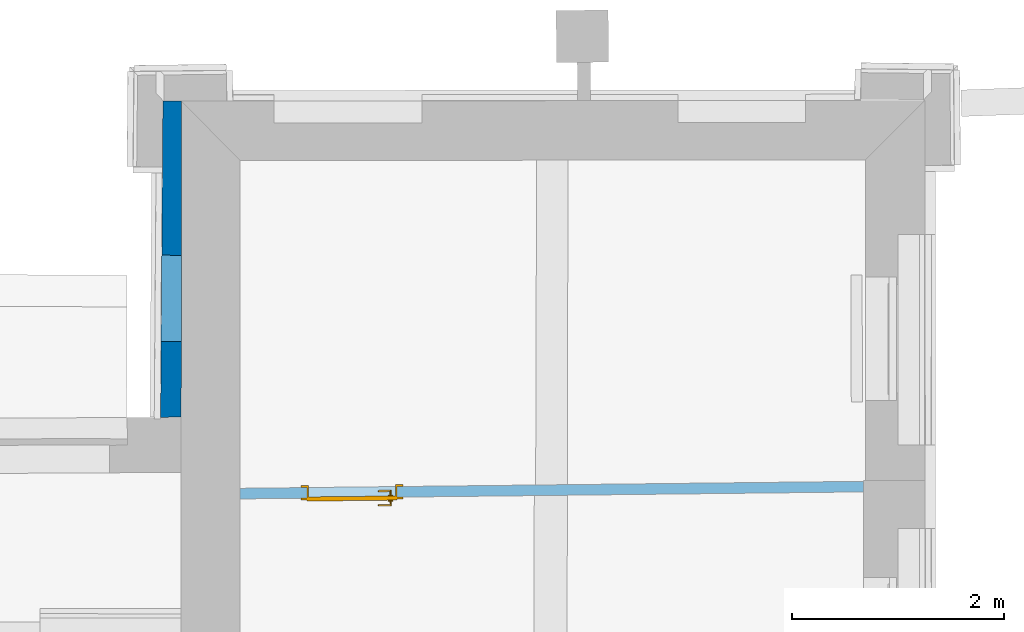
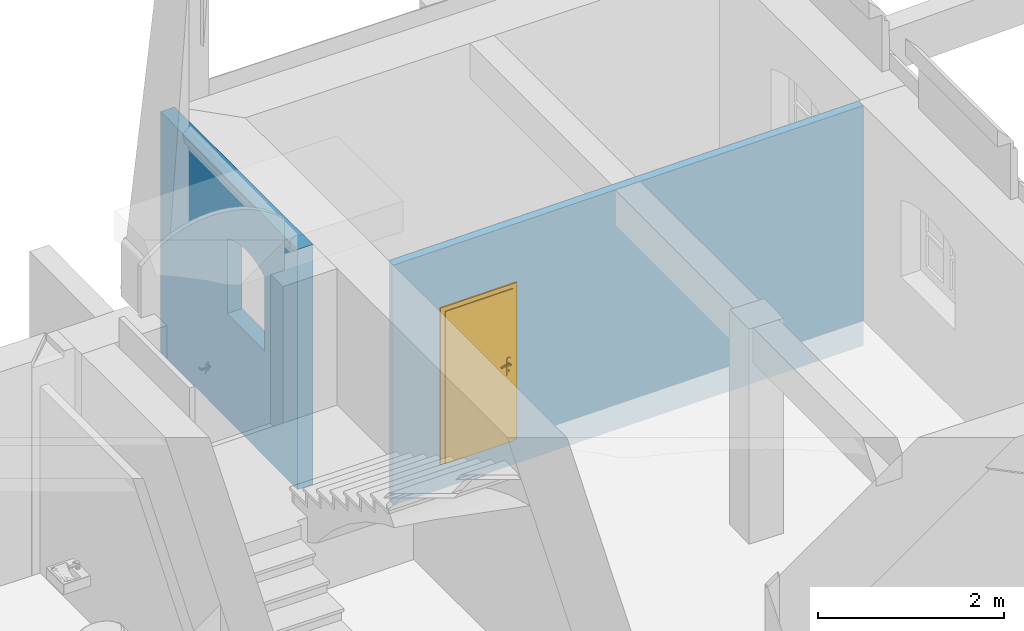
# One storey, part 108 of 196: 1 door, 1 wall, 2 openings, plus 1 element that does not belong to this part.
"""IFC2X3 building model written with IfcOpenShell, lengths in metres."""

import ifcopenshell
import ifcopenshell.guid

model = None  # the IFC model being written
_history = None  # IfcOwnerHistory: only IFC2X3 demands one
_inside = {}  # id of a spatial element -> (the spatial element, [elements in it])
_under = {}  # id of a project, library or spatial element -> (it, [spatial elements below it])
_declared = {}  # id of a project -> (the project, [libraries it declares])
_typed = {}  # id of a type object -> (the type object, [elements of that type])
_made_of = {}  # id of a material, layer set ... -> (it, [elements and type objects made of it])


def new_model(schema):
    """Start an empty IFC model of exactly this schema.

    Asked for "IFC4X3", IfcOpenShell would pick the latest addendum, in which some entities
    have other attributes; the version numbers below select the first issue.
    IFC2X3 requires an IfcOwnerHistory on every rooted entity: one is made here for all.
    """
    global model, _history
    if schema == "IFC4X3":
        model = ifcopenshell.file(schema_version=(4, 3, 0, 0))
    else:
        model = ifcopenshell.file(schema=schema)
    _inside.clear()
    _under.clear()
    _declared.clear()
    _typed.clear()
    _made_of.clear()
    _history = None
    if model.schema == "IFC2X3":
        org = make("IfcOrganization", Name="unknown")
        user = make(
            "IfcPersonAndOrganization",
            ThePerson=make("IfcPerson", FamilyName="unknown"),
            TheOrganization=org,
        )
        app = make(
            "IfcApplication",
            ApplicationDeveloper=org,
            Version="unknown",
            ApplicationFullName="unknown",
            ApplicationIdentifier="unknown",
        )
        _history = make(
            "IfcOwnerHistory",
            OwningUser=user,
            OwningApplication=app,
            ChangeAction="ADDED",
            CreationDate=0,
        )
    return model


def make(cls, **values):
    """One entity of the class cls with the attributes given. An attribute that is None is left unset."""
    return model.create_entity(
        cls, **{name: value for name, value in values.items() if value is not None}
    )


def entity(cls, *values):
    """Any entity or typed value of the class cls, its attributes in the order of the schema. None: left unset."""
    e = model.create_entity(cls)
    for i, value in enumerate(values):
        if value is not None:
            e[i] = value
    return e


def rooted(cls, **values):
    """An entity with a GlobalId (a new one), such as an element, a storey or a relation."""
    return make(cls, GlobalId=ifcopenshell.guid.new(), OwnerHistory=_history, **values)


def si_unit(unit_type, name, prefix=None):
    """IfcSIUnit, for example si_unit("LENGTHUNIT", "METRE", prefix="MILLI")."""
    return make("IfcSIUnit", UnitType=unit_type, Prefix=prefix, Name=name)


def converted_unit(unit_type, name, factor, base, dimensions=None, offset=None):
    """IfcConversionBasedUnit, such as the inch: factor (a typed value) times the base unit."""
    return make(
        "IfcConversionBasedUnit"
        if offset is None
        else "IfcConversionBasedUnitWithOffset",
        ConversionOffset=offset,
        Dimensions=None
        if dimensions is None
        else entity("IfcDimensionalExponents", *dimensions),
        UnitType=unit_type,
        Name=name,
        ConversionFactor=make(
            "IfcMeasureWithUnit", ValueComponent=factor, UnitComponent=base
        ),
    )


def derived_unit(unit_type, elements):
    """IfcDerivedUnit: a product of units, each with its exponent."""
    return make(
        "IfcDerivedUnit",
        Elements=[
            make("IfcDerivedUnitElement", Unit=unit, Exponent=power)
            for unit, power in elements
        ],
        UnitType=unit_type,
    )


def money_unit(currency):
    """IfcMonetaryUnit."""
    return make("IfcMonetaryUnit", Currency=currency)


def assignment(units):
    """IfcUnitAssignment: the units of a project."""
    return None if units is None else make("IfcUnitAssignment", Units=units)


def point(xyz):
    """IfcCartesianPoint."""
    return None if xyz is None else make("IfcCartesianPoint", Coordinates=xyz)


def direction(xyz):
    """IfcDirection."""
    return None if xyz is None else make("IfcDirection", DirectionRatios=xyz)


def frame(location, z_axis=None, x_axis=None):
    """IfcAxis2Placement3D, a coordinate frame: its origin and axes. An axis left out is left unset."""
    return make(
        "IfcAxis2Placement3D",
        Location=point(location),
        Axis=direction(z_axis),
        RefDirection=direction(x_axis),
    )


def frame_2d(location, x_axis=None):
    """IfcAxis2Placement2D, a coordinate frame in the plane: its origin and x axis."""
    return make(
        "IfcAxis2Placement2D", Location=point(location), RefDirection=direction(x_axis)
    )


def origin_with_axes():
    """The frame at (0, 0, 0) with the z axis (0, 0, 1) and the x axis (1, 0, 0) written out."""
    return frame((0.0, 0.0, 0.0), z_axis=(0.0, 0.0, 1.0), x_axis=(1.0, 0.0, 0.0))


def origin_2d_with_axis():
    """The frame at (0, 0) in the plane with the x axis (1, 0) written out."""
    return frame_2d((0.0, 0.0), x_axis=(1.0, 0.0))


def place(relative_to, where):
    """IfcLocalPlacement: puts the frame where relative to a parent placement (None: the world)."""
    return make(
        "IfcLocalPlacement", PlacementRelTo=relative_to, RelativePlacement=where
    )


def context(
    kind, dimensions, precision=None, world=None, true_north=None, identifier=None
):
    """IfcGeometricRepresentationContext, for example the 3D "Model" context."""
    return make(
        "IfcGeometricRepresentationContext",
        ContextIdentifier=identifier,
        ContextType=kind,
        CoordinateSpaceDimension=dimensions,
        Precision=precision,
        WorldCoordinateSystem=world,
        TrueNorth=true_north,
    )


def subcontext(parent, identifier, kind, view, scale=None):
    """IfcGeometricRepresentationSubContext, for example "Body" below "Model"."""
    return make(
        "IfcGeometricRepresentationSubContext",
        ContextIdentifier=identifier,
        ContextType=kind,
        ParentContext=parent,
        TargetScale=scale,
        TargetView=view,
    )


def project(units=None, contexts=None):
    """IfcProject with its units and contexts."""
    return rooted(
        "IfcProject",
        Name="project",
        RepresentationContexts=contexts,
        UnitsInContext=assignment(units),
    )


def spatial(cls, under=None, at=None, **own):
    """A site, building, storey or space (cls), placed at a placement, below another one or the project."""
    s = rooted(cls, ObjectPlacement=at, **own)
    if under is not None:
        _under.setdefault(under.id(), (under, []))[1].append(s)
    return s


def polyline(points):
    """IfcPolyline through the points."""
    return make("IfcPolyline", Points=[point(p) for p in points])


def profile(cls, at=None, kind="AREA", **sizes):
    """A parametric profile (cls). Its sizes go by their IFC names, for example OverallWidth=200.0."""
    return make(cls, ProfileType=kind, Position=at, **sizes)


def rectangle(**sizes):
    """IfcRectangleProfileDef."""
    return profile("IfcRectangleProfileDef", **sizes)


def outline(outer, holes=None, kind="AREA"):
    """IfcArbitraryClosedProfileDef: a profile drawn as a closed curve; with holes, ...WithVoids."""
    if holes is None:
        return make("IfcArbitraryClosedProfileDef", ProfileType=kind, OuterCurve=outer)
    return make(
        "IfcArbitraryProfileDefWithVoids",
        ProfileType=kind,
        OuterCurve=outer,
        InnerCurves=holes,
    )


def extrude(swept, where, along, depth):
    """IfcExtrudedAreaSolid: the profile swept, set in the frame where, extruded along a direction by depth."""
    return make(
        "IfcExtrudedAreaSolid",
        SweptArea=swept,
        Position=where,
        ExtrudedDirection=direction(along),
        Depth=depth,
    )


def boolean(op, a, b):
    """IfcBooleanResult of two solids."""
    return make("IfcBooleanResult", Operator=op, FirstOperand=a, SecondOperand=b)


def faces_of(points, faces, orient=None, outer=None):
    """IfcFace entities. A face is a list of loops; a loop is a list of indices into points, from 0.

    orient and outer hold one flag for each loop. By default every Orientation is true, the
    first loop of a face is its IfcFaceOuterBound and the others are IfcFaceBound.
    """
    made = []
    for i, loops in enumerate(faces):
        bounds = []
        for j, loop in enumerate(loops):
            is_outer = j == 0 if outer is None else outer[i][j]
            bounds.append(
                make(
                    "IfcFaceOuterBound" if is_outer else "IfcFaceBound",
                    Bound=make("IfcPolyLoop", Polygon=[points[k] for k in loop]),
                    Orientation=True if orient is None else orient[i][j],
                )
            )
        made.append(make("IfcFace", Bounds=bounds))
    return made


def faceted_brep(points, faces, orient=None, outer=None, voids=None):
    """IfcFacetedBrep: a solid bounded by flat faces; with voids (closed shells), ...WithVoids."""
    shared = [point(p) for p in points]
    hull = make("IfcClosedShell", CfsFaces=faces_of(shared, faces, orient, outer))
    if voids is None:
        return make("IfcFacetedBrep", Outer=hull)
    return make(
        "IfcFacetedBrepWithVoids",
        Outer=hull,
        Voids=[
            make(cls, CfsFaces=faces_of(shared, fs, o, b)) for cls, fs, o, b in voids
        ],
    )


def shape(context_of_items, identifier, shape_type, items):
    """IfcShapeRepresentation: the items that make up one representation, for example the "Body"."""
    return make(
        "IfcShapeRepresentation",
        ContextOfItems=context_of_items,
        RepresentationIdentifier=identifier,
        RepresentationType=shape_type,
        Items=items,
    )


def material(Name=None, Category=None):
    """IfcMaterial."""
    return make("IfcMaterial", Name=Name, Category=Category)


def layer(
    of_material, thickness, ventilated=None, Name=None, Category=None, Priority=None
):
    """IfcMaterialLayer: one layer of a wall or slab, of a material (None: an air gap)."""
    return make(
        "IfcMaterialLayer",
        Material=of_material,
        LayerThickness=thickness,
        IsVentilated=ventilated,
        Name=Name,
        Category=Category,
        Priority=Priority,
    )


def layer_set(layers, Name=None):
    """IfcMaterialLayerSet."""
    return make("IfcMaterialLayerSet", MaterialLayers=layers, LayerSetName=Name)


def layer_usage(for_layer_set, set_direction, sense, offset, extent=None):
    """IfcMaterialLayerSetUsage: how a layer set lies in its element."""
    return make(
        "IfcMaterialLayerSetUsage",
        ForLayerSet=for_layer_set,
        LayerSetDirection=set_direction,
        DirectionSense=sense,
        OffsetFromReferenceLine=offset,
        ReferenceExtent=extent,
    )


def made_of(thing, what):
    """Note that an element or type object is made of a material, layer set ...; save() writes the relation."""
    if what is not None:
        _made_of.setdefault(what.id(), (what, []))[1].append(thing)
    return thing


def type_object(cls, material=None, **own):
    """A type object (cls), such as IfcWallType, which elements share."""
    return made_of(rooted(cls, **own), material)


def element(
    cls,
    number,
    at=None,
    inside=None,
    cuts=None,
    type_object=None,
    material=None,
    context=None,
    identifier="Body",
    shape_type=None,
    held_by="IfcProductDefinitionShape",
    body=None,
    shapes=None,
    **own,
):
    """One element of the class cls, such as IfcWall. Its Tag is "e" and its number.

    at: its placement. inside: the storey or other place that contains it. cuts: it is an
    opening in that element (IfcRelVoidsElement). A single representation is given by context,
    identifier, shape_type and body (its items); several are given by shapes. held_by: the class
    of the entity that holds the representations. save() writes the other relations.
    """
    e = rooted(cls, Tag="e%d" % number, ObjectPlacement=at, **own)
    if body is not None:
        shapes = [shape(context, identifier, shape_type, body)]
    if shapes is not None:
        e.Representation = make(held_by, Representations=shapes)
    if inside is not None:
        _inside.setdefault(inside.id(), (inside, []))[1].append(e)
    if cuts is not None:
        rooted(
            "IfcRelVoidsElement", RelatingBuildingElement=cuts, RelatedOpeningElement=e
        )
    if type_object is not None:
        _typed.setdefault(type_object.id(), (type_object, []))[1].append(e)
    return made_of(e, material)


def fill(opening, filler):
    """IfcRelFillsElement: the door or window that sits in an opening."""
    return rooted(
        "IfcRelFillsElement",
        RelatingOpeningElement=opening,
        RelatedBuildingElement=filler,
    )


def aggregate(whole, parts):
    """IfcRelAggregates: a whole, such as a stair, and the parts it consists of."""
    return rooted("IfcRelAggregates", RelatingObject=whole, RelatedObjects=parts)


def save(model, path):
    """Write the relations noted so far, then the file.

    IfcRelAggregates (storeys below a building ...), IfcRelContainedInSpatialStructure (elements
    in a storey), IfcRelDefinesByType, IfcRelAssociatesMaterial and IfcRelDeclares: one each for
    every whole, place, type object, material and project.
    """
    for whole, parts in _under.values():
        aggregate(whole, parts)
    for where, things in _inside.values():
        rooted(
            "IfcRelContainedInSpatialStructure",
            RelatedElements=things,
            RelatingStructure=where,
        )
    for kind, things in _typed.values():
        rooted("IfcRelDefinesByType", RelatedObjects=things, RelatingType=kind)
    for what, things in _made_of.values():
        rooted("IfcRelAssociatesMaterial", RelatedObjects=things, RelatingMaterial=what)
    for by, libraries in _declared.values():
        rooted("IfcRelDeclares", RelatingContext=by, RelatedDefinitions=libraries)
    model.write(path)


model = new_model("IFC2X3")

# Units and contexts
model_context = context("Model", 3, precision=1e-05, world=origin_with_axes(), true_north=direction((0.0, 1.0)))
body_context = subcontext(model_context, "Body", "Model", "MODEL_VIEW")
ifc_project = project(units=[si_unit("LENGTHUNIT", "METRE"), si_unit("AREAUNIT", "SQUARE_METRE"), si_unit("VOLUMEUNIT", "CUBIC_METRE"), converted_unit("PLANEANGLEUNIT", "DEGREE", entity("IfcPlaneAngleMeasure", 0.0174532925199), si_unit("PLANEANGLEUNIT", "RADIAN"), dimensions=[0, 0, 0, 0, 0, 0, 0]), money_unit("EUR"), converted_unit("TIMEUNIT", "Year", entity("IfcTimeMeasure", 31556926.0), si_unit("TIMEUNIT", "SECOND"), dimensions=[0, 0, 1, 0, 0, 0, 0]), si_unit("MASSUNIT", "GRAM", prefix="KILO"), si_unit("THERMODYNAMICTEMPERATUREUNIT", "DEGREE_CELSIUS"), si_unit("LUMINOUSINTENSITYUNIT", "LUMEN"), si_unit("ENERGYUNIT", "JOULE", prefix="MEGA"), derived_unit("THERMALCONDUCTANCEUNIT", [(si_unit("POWERUNIT", "WATT"), 1), (si_unit("LENGTHUNIT", "METRE"), -1), (si_unit("THERMODYNAMICTEMPERATUREUNIT", "KELVIN"), -1)]), derived_unit("SPECIFICHEATCAPACITYUNIT", [(si_unit("ENERGYUNIT", "JOULE"), 1), (si_unit("MASSUNIT", "GRAM", prefix="KILO"), -1), (si_unit("THERMODYNAMICTEMPERATUREUNIT", "KELVIN"), -1)]), derived_unit("MASSDENSITYUNIT", [(si_unit("MASSUNIT", "GRAM", prefix="KILO"), 1), (si_unit("VOLUMEUNIT", "CUBIC_METRE"), -1)])], contexts=[model_context])

# Site, building, storey
site_placement = place(None, origin_with_axes())
site = spatial("IfcSite", under=ifc_project, at=site_placement, Name="Gelände", CompositionType="ELEMENT")
building_placement = place(site_placement, origin_with_axes())
building = spatial("IfcBuilding", under=site, at=building_placement, Name="Gebäude", CompositionType="ELEMENT")
storey_placement = place(building_placement, frame((0.0, 0.0, -3.0), z_axis=(0.0, 0.0, 1.0), x_axis=(1.0, 0.0, 0.0)))
storey = spatial("IfcBuildingStorey", under=building, at=storey_placement, Name="KELLERGESCHOSS", CompositionType="ELEMENT", Elevation=-3.0)

# Wall, opening
ifc_material = material(Name="05_ALLGEMEIN - TRAGENDE BAUTEILE")
wall_type_1 = type_object("IfcWallType", Name="05_ALLGEMEIN - TRAGENDE BAUTEILE 400", PredefinedType="ELEMENTEDWALL")
wall_1_placement = place(storey_placement, frame((24.4999032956, 29.1629939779, -0.36), z_axis=(0.0, 0.0, 1.0), x_axis=(-0.00729687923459, -0.999973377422, 0.0)))
wall_1 = element("IfcWall", 1, at=wall_1_placement, inside=storey, type_object=wall_type_1, material=ifc_material, Name="Wand-030", ObjectType="ELEMENTEDWALL", context=body_context, shape_type="CSG", body=[
    boolean("DIFFERENCE", extrude(outline(polyline([(0.0, 0.0), (3.49754577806, 0.0), (3.49754577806, 0.4), (0.0, 0.4), (0.0, 0.0)])), origin_with_axes(), (0.0, 0.0, 1.0), 3.15), faceted_brep([(0.0, 0.17335372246, 0.0), (0.0, 0.17335372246, 3.15), (0.0, 0.4, 3.15), (0.0, 0.4, 0.0), (0.558592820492, 0.177347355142, 3.15), (0.558592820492, 0.177347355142, 0.0), (2.97502572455, 0.19462352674, 3.15), (2.97750363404, 0.0, 3.15), (3.49754577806, 0.0, 3.15), (3.49754577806, 0.4, 3.15), (3.49754577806, 0.4, 0.0), (3.49754577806, 0.0, 0.0), (2.97750363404, 0.0, 0.0), (2.97502572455, 0.19462352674, 0.0)], [[[0, 1, 2, 3]], [[4, 1, 0, 5]], [[6, 7, 8, 9, 2, 1, 4]], [[9, 10, 3, 2]], [[5, 0, 3, 10, 11, 12, 13]], [[6, 4, 5, 13]], [[7, 6, 13, 12]], [[7, 12, 11, 8]], [[8, 11, 10, 9]]])),
])
opening_1_placement = place(wall_1_placement, frame((1.85745492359, 0.0, 1.3849357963), z_axis=(0.0, 0.0, 1.0), x_axis=(1.0, 0.0, 0.0)))
element("IfcOpeningElement", 2, at=opening_1_placement, cuts=wall_1, Name="Fenster-015", context=body_context, shape_type="SweptSolid", body=[
    extrude(outline(polyline([(-0.406101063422, 0.0), (-0.406101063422, -0.974247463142), (-0.329991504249, -1.01155716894), (-0.250499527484, -1.04098003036), (-0.168439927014, -1.06221446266), (-0.084653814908, -1.0750428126), (0.0, -1.07933358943), (0.084653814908, -1.0750428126), (0.168439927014, -1.06221446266), (0.250499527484, -1.04098003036), (0.329991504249, -1.01155716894), (0.406101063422, -0.974247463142), (0.406101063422, 0.0), (-0.406101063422, 0.0)])), frame((0.0, 0.266646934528, 0.0), z_axis=(0.0, 1.0, 0.0), x_axis=(1.0, 0.0, 0.0)), (0.0, 0.0, -1.0), 0.666646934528),
    extrude(outline(polyline([(0.476101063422, 0.0), (0.476101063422, 1.014368), (0.403076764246, 1.05487304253), (0.326637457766, 1.08849207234), (0.247430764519, 1.11494025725), (0.166127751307, 1.13399351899), (0.083417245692, 1.14549043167), (0.0, 1.14933358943), (-0.083417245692, 1.14549043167), (-0.166127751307, 1.13399351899), (-0.247430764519, 1.11494025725), (-0.326637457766, 1.08849207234), (-0.403076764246, 1.05487304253), (-0.476101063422, 1.014368), (-0.476101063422, 0.0), (0.476101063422, 0.0)])), frame((0.0, 0.266646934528, 0.0), z_axis=(0.0, -1.0, 0.0), x_axis=(1.0, 0.0, 0.0)), (0.0, 0.0, -1.0), 0.533353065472),
])

# Wall, opening, door
ifc_layer = layer(ifc_material, 0.1, ventilated="UNKNOWN")
ifc_layer_set = layer_set([ifc_layer], Name="05_ALLGEMEIN - TRAGENDE BAUTEILE 0.1")
ifc_layer_usage = layer_usage(ifc_layer_set, "AXIS2", "POSITIVE", -0.1)
wall_type_2 = type_object("IfcWallType", Name="05_ALLGEMEIN - TRAGENDE BAUTEILE 100", PredefinedType="ELEMENTEDWALL")
wall_2_placement = place(storey_placement, frame((24.6727134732, 25.5107792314, -0.36), z_axis=(0.0, 0.0, 1.0), x_axis=(0.999936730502, 0.0112487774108, 0.0)))
wall_2 = element("IfcWallStandardCase", 3, at=wall_2_placement, inside=storey, type_object=wall_type_2, material=ifc_layer_usage, Name="Wand-039", ObjectType="ELEMENTEDWALL", context=body_context, shape_type="SweptSolid", body=[
    extrude(outline(polyline([(0.553286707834, -0.1), (6.42175266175, -0.1), (6.42284391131, 0.0), (0.554426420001, 0.0), (0.553286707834, -0.1)])), origin_with_axes(), (0.0, 0.0, 1.0), 3.15),
])
opening_2_placement = place(wall_2_placement, frame((1.60711637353, 0.0, 0.333848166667), z_axis=(0.0, 0.0, 1.0), x_axis=(1.0, 0.0, 0.0)))
opening_2 = element("IfcOpeningElement", 4, at=opening_2_placement, cuts=wall_2, Name="Tür-022", context=body_context, shape_type="SweptSolid", body=[
    extrude(rectangle(XDim=0.850611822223, YDim=2.00126, at=origin_2d_with_axis()), frame((0.0, -0.1, 1.00063), z_axis=(0.0, 1.0, 0.0), x_axis=(-1.0, 0.0, 0.0)), (0.0, 0.0, 1.0), 0.3),
])
door_style = type_object("IfcDoorStyle", Name="Blockrahmentür 1-Fl 25", ConstructionType="NOTDEFINED", OperationType="SINGLE_SWING_RIGHT", ParameterTakesPrecedence=False, Sizeable=False)
door_placement = place(opening_2_placement, frame((0.410305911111, 0.0, 0.0), z_axis=(0.0, 0.0, 1.0), x_axis=(-1.0, 0.0, 0.0)))
door = element("IfcDoor", 5, at=door_placement, inside=storey, type_object=door_style, Name="Tür-022", ObjectType="NOTDEFINED", OverallHeight=2.00126, OverallWidth=0.850612, context=body_context, shape_type="Brep", body=[
    faceted_brep([(0.835611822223, -0.018, 0.0), (0.835611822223, 0.088, 0.0), (0.835611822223, 0.088, 2.00126), (0.835611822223, -0.018, 2.00126), (0.820611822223, -0.018, 0.0), (0.820611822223, 0.088, 0.0), (0.820611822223, 0.088, 1.98626), (0.522405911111, 0.088, 1.98626), (0.410405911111, 0.088, 1.98626), (0.0, 0.088, 1.98626), (0.0, 0.088, 0.0), (-0.015, 0.088, 0.0), (-0.015, 0.088, 2.00126), (-0.015, -0.018, 2.00126), (-0.015, -0.018, 0.0), (0.0, -0.018, 0.0), (0.0, -0.018, 1.98626), (0.410405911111, -0.018, 1.98626), (0.522405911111, -0.018, 1.98626), (0.820611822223, -0.018, 1.98626)], [[[0, 1, 2, 3]], [[4, 5, 1, 0]], [[1, 5, 6, 7, 8, 9, 10, 11, 12, 2]], [[3, 2, 12, 13]], [[0, 3, 13, 14, 15, 16, 17, 18, 19, 4]], [[19, 6, 5, 4]], [[18, 7, 6, 19]], [[17, 8, 7, 18]], [[16, 9, 8, 17]], [[15, 10, 9, 16]], [[14, 11, 10, 15]], [[13, 12, 11, 14]]]),
    faceted_brep([(0.835611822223, 0.088, 0.0), (0.835611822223, 0.118, 0.0), (0.835611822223, 0.118, 2.00126), (0.835611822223, 0.088, 2.00126), (0.832611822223, 0.088, 0.0), (0.832611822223, 0.118, 0.0), (0.832611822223, 0.118, 1.99826), (0.510405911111, 0.118, 1.99826), (0.422405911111, 0.118, 1.99826), (-0.012, 0.118, 1.99826), (-0.012, 0.118, 0.0), (-0.015, 0.118, 0.0), (-0.015, 0.118, 2.00126), (-0.015, 0.088, 2.00126), (-0.015, 0.088, 0.0), (-0.012, 0.088, 0.0), (-0.012, 0.088, 1.99826), (0.422405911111, 0.088, 1.99826), (0.510405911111, 0.088, 1.99826), (0.832611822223, 0.088, 1.99826)], [[[0, 1, 2, 3]], [[4, 5, 1, 0]], [[1, 5, 6, 7, 8, 9, 10, 11, 12, 2]], [[3, 2, 12, 13]], [[0, 3, 13, 14, 15, 16, 17, 18, 19, 4]], [[19, 6, 5, 4]], [[18, 7, 6, 19]], [[17, 8, 7, 18]], [[16, 9, 8, 17]], [[15, 10, 9, 16]], [[14, 11, 10, 15]], [[13, 12, 11, 14]]]),
    faceted_brep([(0.890611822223, -0.018, 0.0), (0.890611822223, 0.0, 0.0), (0.890611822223, 0.0, 2.05626), (0.890611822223, -0.018, 2.05626), (0.835611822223, -0.018, 0.0), (0.835611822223, 0.0, 0.0), (0.835611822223, 0.0, 2.00126), (-0.015, 0.0, 2.00126), (-0.015, 0.0, 0.0), (-0.07, 0.0, 0.0), (-0.07, 0.0, 2.05626), (-0.07, -0.018, 2.05626), (-0.07, -0.018, 0.0), (-0.015, -0.018, 0.0), (-0.015, -0.018, 2.00126), (0.835611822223, -0.018, 2.00126)], [[[0, 1, 2, 3]], [[4, 5, 1, 0]], [[1, 5, 6, 7, 8, 9, 10, 2]], [[3, 2, 10, 11]], [[0, 3, 11, 12, 13, 14, 15, 4]], [[15, 6, 5, 4]], [[14, 7, 6, 15]], [[13, 8, 7, 14]], [[12, 9, 8, 13]], [[11, 10, 9, 12]]]),
    faceted_brep([(0.890611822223, 0.1, 0.0), (0.890611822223, 0.118, 0.0), (0.890611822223, 0.118, 2.05626), (0.890611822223, 0.1, 2.05626), (0.835611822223, 0.1, 0.0), (0.835611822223, 0.118, 0.0), (0.835611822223, 0.118, 2.00126), (-0.015, 0.118, 2.00126), (-0.015, 0.118, 0.0), (-0.07, 0.118, 0.0), (-0.07, 0.118, 2.05626), (-0.07, 0.1, 2.05626), (-0.07, 0.1, 0.0), (-0.015, 0.1, 0.0), (-0.015, 0.1, 2.00126), (0.835611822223, 0.1, 2.00126)], [[[0, 1, 2, 3]], [[4, 5, 1, 0]], [[1, 5, 6, 7, 8, 9, 10, 2]], [[3, 2, 10, 11]], [[0, 3, 11, 12, 13, 14, 15, 4]], [[15, 6, 5, 4]], [[14, 7, 6, 15]], [[13, 8, 7, 14]], [[12, 9, 8, 13]], [[11, 10, 9, 12]]]),
    faceted_brep([(0.832611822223, 0.128, 0.0), (-0.012, 0.128, 0.0), (-0.012, 0.128, 1.99826), (0.832611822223, 0.128, 1.99826), (0.832611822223, 0.088, 0.0), (-0.012, 0.088, 0.0), (-0.012, 0.088, 1.99826), (0.832611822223, 0.088, 1.99826)], [[[0, 1, 2, 3]], [[1, 0, 4, 5]], [[2, 1, 5, 6]], [[3, 2, 6, 7]], [[0, 3, 7, 4]], [[5, 4, 7, 6]]]),
    faceted_brep([(0.0432977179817, 0.048, 1.05647213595), (0.048, 0.048, 1.058), (0.048, 0.068, 1.058), (0.0432977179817, 0.068, 1.05647213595), (0.0403915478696, 0.048, 1.05247213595), (0.0403915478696, 0.048, 1.04752786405), (0.0432977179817, 0.048, 1.04352786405), (0.048, 0.048, 1.042), (0.0527022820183, 0.048, 1.04352786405), (0.0556084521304, 0.048, 1.04752786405), (0.0556084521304, 0.048, 1.05247213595), (0.0527022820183, 0.048, 1.05647213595), (0.0527022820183, 0.068, 1.05647213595), (0.048, 0.07, 1.06), (0.0421221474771, 0.07, 1.05809016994), (0.0403915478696, 0.068, 1.05247213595), (0.0403915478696, 0.068, 1.04752786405), (0.0432977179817, 0.068, 1.04352786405), (0.048, 0.068, 1.042), (0.0527022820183, 0.068, 1.04352786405), (0.0556084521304, 0.068, 1.04752786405), (0.0556084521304, 0.068, 1.05247213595), (0.0538778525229, 0.07, 1.05809016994), (0.048, 0.078, 1.06), (0.0421221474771, 0.078, 1.05809016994), (0.038489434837, 0.07, 1.05309016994), (0.038489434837, 0.07, 1.04690983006), (0.0421221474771, 0.07, 1.04190983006), (0.048, 0.07, 1.04), (0.0538778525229, 0.07, 1.04190983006), (0.0575105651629, 0.07, 1.04690983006), (0.0575105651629, 0.07, 1.05309016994), (0.0538778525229, 0.078, 1.05809016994), (0.0575105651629, 0.078, 1.05309016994), (0.0575105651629, 0.078, 1.04690983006), (0.0538778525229, 0.078, 1.04190983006), (0.048, 0.078, 1.04), (0.0421221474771, 0.078, 1.04190983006), (0.0384894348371, 0.078, 1.04690983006), (0.0384894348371, 0.078, 1.05309016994)], [[[0, 1, 2, 3]], [[1, 0, 4, 5, 6, 7, 8, 9, 10, 11]], [[1, 11, 12, 2]], [[3, 2, 13, 14]], [[4, 0, 3, 15]], [[5, 4, 15, 16]], [[6, 5, 16, 17]], [[7, 6, 17, 18]], [[8, 7, 18, 19]], [[9, 8, 19, 20]], [[10, 9, 20, 21]], [[11, 10, 21, 12]], [[2, 12, 22, 13]], [[14, 13, 23, 24]], [[15, 3, 14, 25]], [[16, 15, 25, 26]], [[17, 16, 26, 27]], [[18, 17, 27, 28]], [[19, 18, 28, 29]], [[20, 19, 29, 30]], [[21, 20, 30, 31]], [[12, 21, 31, 22]], [[13, 22, 32, 23]], [[23, 32, 33, 34, 35, 36, 37, 38, 39, 24]], [[25, 14, 24, 39]], [[26, 25, 39, 38]], [[27, 26, 38, 37]], [[28, 27, 37, 36]], [[29, 28, 36, 35]], [[30, 29, 35, 34]], [[31, 30, 34, 33]], [[22, 31, 33, 32]]]),
    faceted_brep([(0.0601883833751, 0.078, 1.11759695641), (0.0524435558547, 0.078, 1.12195567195), (0.0435564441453, 0.078, 1.12195567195), (0.0358116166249, 0.078, 1.11759695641), (0.0312, 0.078, 1.11), (0.0255, 0.078, 1.11), (0.0255, 0.078, 0.89), (0.0312, 0.078, 0.89), (0.0358116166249, 0.078, 0.882403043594), (0.0435564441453, 0.078, 0.878044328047), (0.0524435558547, 0.078, 0.878044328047), (0.0601883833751, 0.078, 0.882403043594), (0.0648, 0.078, 0.89), (0.0705, 0.078, 0.89), (0.0705, 0.078, 1.11), (0.0648, 0.078, 1.11), (0.048, 0.078, 0.967425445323), (0.053375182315, 0.078, 0.965143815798), (0.0554678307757, 0.078, 0.959692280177), (0.053, 0.078, 0.9544), (0.053, 0.078, 0.9375), (0.0515355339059, 0.078, 0.933964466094), (0.048, 0.078, 0.9325), (0.0444644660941, 0.078, 0.933964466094), (0.043, 0.078, 0.9375), (0.043, 0.078, 0.9544), (0.0405321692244, 0.078, 0.959692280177), (0.042624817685, 0.078, 0.965143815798), (0.0601883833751, 0.088, 1.11759695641), (0.0524435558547, 0.088, 1.12195567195), (0.0435564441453, 0.088, 1.12195567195), (0.0358116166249, 0.088, 1.11759695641), (0.0312, 0.088, 1.11), (0.0255, 0.088, 1.11), (0.0255, 0.088, 0.89), (0.0312, 0.088, 0.89), (0.0358116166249, 0.088, 0.882403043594), (0.0435564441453, 0.088, 0.878044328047), (0.0524435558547, 0.088, 0.878044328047), (0.0601883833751, 0.088, 0.882403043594), (0.0648, 0.088, 0.89), (0.0705, 0.088, 0.89), (0.0705, 0.088, 1.11), (0.0648, 0.088, 1.11), (0.048, 0.088, 0.967425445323), (0.053375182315, 0.088, 0.965143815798), (0.0554678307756, 0.088, 0.959692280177), (0.053, 0.088, 0.9544), (0.053, 0.088, 0.9375), (0.0515355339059, 0.088, 0.933964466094), (0.048, 0.088, 0.9325), (0.0444644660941, 0.088, 0.933964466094), (0.043, 0.088, 0.9375), (0.043, 0.088, 0.9544), (0.0405321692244, 0.088, 0.959692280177), (0.0426248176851, 0.088, 0.965143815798)], [[[0, 1, 2, 3, 4, 5, 6, 7, 8, 9, 10, 11, 12, 13, 14, 15], [16, 17, 18, 19, 20, 21, 22, 23, 24, 25, 26, 27]], [[1, 0, 28, 29]], [[2, 1, 29, 30]], [[3, 2, 30, 31]], [[4, 3, 31, 32]], [[5, 4, 32, 33]], [[6, 5, 33, 34]], [[7, 6, 34, 35]], [[8, 7, 35, 36]], [[9, 8, 36, 37]], [[10, 9, 37, 38]], [[11, 10, 38, 39]], [[12, 11, 39, 40]], [[13, 12, 40, 41]], [[14, 13, 41, 42]], [[15, 14, 42, 43]], [[0, 15, 43, 28]], [[17, 16, 44, 45]], [[18, 17, 45, 46]], [[19, 18, 46, 47]], [[19, 47, 48, 20]], [[20, 48, 49, 21]], [[21, 49, 50, 22]], [[22, 50, 51, 23]], [[23, 51, 52, 24]], [[53, 25, 24, 52]], [[26, 25, 53, 54]], [[27, 26, 54, 55]], [[16, 27, 55, 44]], [[40, 39, 38, 37, 36, 35, 34, 33, 32, 31, 30, 29, 28, 43, 42, 41], [54, 53, 52, 51, 50, 49, 48, 47, 46, 45, 44, 55]]]),
    faceted_brep([(0.162253, 0.048, 1.057158), (0.162253, 0.033, 1.057158), (0.162254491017, 0.033, 1.05719388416), (0.162254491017, 0.048, 1.05719388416), (0.135225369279, 0.048, 1.06432652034), (0.135225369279, 0.033, 1.06432652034), (0.107397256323, 0.033, 1.06706086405), (0.0794912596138, 0.033, 1.06529002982), (0.052232, 0.033, 1.05906), (0.0458294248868, 0.033, 1.05976125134), (0.0403273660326, 0.033, 1.05641280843), (0.0380084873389, 0.033, 1.05040385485), (0.0398348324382, 0.033, 1.04422735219), (0.0450486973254, 0.033, 1.04044577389), (0.0514869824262, 0.033, 1.04062800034), (0.0564786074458, 0.033, 1.04469843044), (0.056458, 0.033, 1.044666), (0.0817467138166, 0.033, 1.05019878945), (0.107589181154, 0.033, 1.05171460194), (0.133351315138, 0.033, 1.04917624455), (0.158401, 0.033, 1.042646), (0.163944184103, 0.033, 1.04356849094), (0.16730572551, 0.033, 1.04807159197), (0.166614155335, 0.033, 1.05364829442), (0.166614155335, 0.048, 1.05364829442), (0.16730572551, 0.048, 1.04807159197), (0.163944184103, 0.048, 1.04356849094), (0.158401, 0.048, 1.042646), (0.133351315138, 0.048, 1.04917624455), (0.107589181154, 0.048, 1.05171460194), (0.0817467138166, 0.048, 1.05019878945), (0.056458, 0.048, 1.044666), (0.0564786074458, 0.048, 1.04469843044), (0.0514869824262, 0.048, 1.04062800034), (0.0450486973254, 0.048, 1.04044577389), (0.0398348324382, 0.048, 1.04422735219), (0.0380084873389, 0.048, 1.05040385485), (0.0403273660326, 0.048, 1.05641280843), (0.0458294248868, 0.048, 1.05976125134), (0.052232, 0.048, 1.05906), (0.0794912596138, 0.048, 1.06529002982), (0.107397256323, 0.048, 1.06706086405)], [[[0, 1, 2, 3]], [[4, 5, 1, 0]], [[1, 5, 6, 7, 8, 9, 10, 11, 12, 13, 14, 15, 16, 17, 18, 19, 20, 21, 22, 23, 2]], [[3, 2, 23, 24]], [[0, 3, 24, 25, 26, 27, 28, 29, 30, 31, 32, 33, 34, 35, 36, 37, 38, 39, 40, 41, 4]], [[41, 6, 5, 4]], [[40, 7, 6, 41]], [[39, 8, 7, 40]], [[38, 9, 8, 39]], [[37, 10, 9, 38]], [[36, 11, 10, 37]], [[35, 12, 11, 36]], [[34, 13, 12, 35]], [[33, 14, 13, 34]], [[32, 15, 14, 33]], [[31, 16, 15, 32]], [[30, 17, 16, 31]], [[29, 18, 17, 30]], [[28, 19, 18, 29]], [[27, 20, 19, 28]], [[26, 21, 20, 27]], [[25, 22, 21, 26]], [[24, 23, 22, 25]]]),
    faceted_brep([(0.0432977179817, 0.168, 1.05647213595), (0.0432977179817, 0.148, 1.05647213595), (0.048, 0.148, 1.058), (0.048, 0.168, 1.058), (0.0403915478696, 0.168, 1.05247213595), (0.0403915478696, 0.148, 1.05247213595), (0.0421221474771, 0.146, 1.05809016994), (0.048, 0.146, 1.06), (0.0527022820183, 0.148, 1.05647213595), (0.0527022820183, 0.168, 1.05647213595), (0.0556084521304, 0.168, 1.05247213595), (0.0556084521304, 0.168, 1.04752786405), (0.0527022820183, 0.168, 1.04352786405), (0.048, 0.168, 1.042), (0.0432977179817, 0.168, 1.04352786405), (0.0403915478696, 0.168, 1.04752786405), (0.0403915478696, 0.148, 1.04752786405), (0.0384894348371, 0.146, 1.05309016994), (0.0421221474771, 0.138, 1.05809016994), (0.048, 0.138, 1.06), (0.0538778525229, 0.146, 1.05809016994), (0.0556084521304, 0.148, 1.05247213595), (0.0556084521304, 0.148, 1.04752786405), (0.0527022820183, 0.148, 1.04352786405), (0.048, 0.148, 1.042), (0.0432977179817, 0.148, 1.04352786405), (0.0384894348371, 0.146, 1.04690983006), (0.0384894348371, 0.138, 1.05309016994), (0.0384894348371, 0.138, 1.04690983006), (0.0421221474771, 0.138, 1.04190983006), (0.048, 0.138, 1.04), (0.0538778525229, 0.138, 1.04190983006), (0.057510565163, 0.138, 1.04690983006), (0.057510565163, 0.138, 1.05309016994), (0.0538778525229, 0.138, 1.05809016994), (0.057510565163, 0.146, 1.05309016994), (0.057510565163, 0.146, 1.04690983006), (0.0538778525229, 0.146, 1.04190983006), (0.048, 0.146, 1.04), (0.0421221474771, 0.146, 1.04190983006)], [[[0, 1, 2, 3]], [[4, 5, 1, 0]], [[1, 6, 7, 2]], [[3, 2, 8, 9]], [[3, 9, 10, 11, 12, 13, 14, 15, 4, 0]], [[15, 16, 5, 4]], [[5, 17, 6, 1]], [[6, 18, 19, 7]], [[2, 7, 20, 8]], [[9, 8, 21, 10]], [[10, 21, 22, 11]], [[11, 22, 23, 12]], [[12, 23, 24, 13]], [[13, 24, 25, 14]], [[14, 25, 16, 15]], [[16, 26, 17, 5]], [[17, 27, 18, 6]], [[19, 18, 27, 28, 29, 30, 31, 32, 33, 34]], [[7, 19, 34, 20]], [[8, 20, 35, 21]], [[21, 35, 36, 22]], [[22, 36, 37, 23]], [[23, 37, 38, 24]], [[24, 38, 39, 25]], [[25, 39, 26, 16]], [[26, 28, 27, 17]], [[39, 29, 28, 26]], [[38, 30, 29, 39]], [[37, 31, 30, 38]], [[36, 32, 31, 37]], [[35, 33, 32, 36]], [[20, 34, 33, 35]]]),
    faceted_brep([(0.0601883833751, 0.128, 1.11759695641), (0.0524435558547, 0.128, 1.12195567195), (0.0435564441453, 0.128, 1.12195567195), (0.0358116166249, 0.128, 1.11759695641), (0.0312, 0.128, 1.11), (0.0255, 0.128, 1.11), (0.0255, 0.128, 0.89), (0.0312, 0.128, 0.89), (0.0358116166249, 0.128, 0.882403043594), (0.0435564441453, 0.128, 0.878044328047), (0.0524435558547, 0.128, 0.878044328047), (0.0601883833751, 0.128, 0.882403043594), (0.0648, 0.128, 0.89), (0.0705, 0.128, 0.89), (0.0705, 0.128, 1.11), (0.0648, 0.128, 1.11), (0.048, 0.128, 0.967425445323), (0.053375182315, 0.128, 0.965143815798), (0.0554678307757, 0.128, 0.959692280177), (0.053, 0.128, 0.9544), (0.053, 0.128, 0.9375), (0.0515355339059, 0.128, 0.933964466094), (0.048, 0.128, 0.9325), (0.0444644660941, 0.128, 0.933964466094), (0.043, 0.128, 0.9375), (0.043, 0.128, 0.9544), (0.0405321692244, 0.128, 0.959692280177), (0.0426248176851, 0.128, 0.965143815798), (0.0524435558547, 0.138, 1.12195567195), (0.0601883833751, 0.138, 1.11759695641), (0.0435564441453, 0.138, 1.12195567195), (0.0358116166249, 0.138, 1.11759695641), (0.0312, 0.138, 1.11), (0.0255, 0.138, 1.11), (0.0255, 0.138, 0.89), (0.0312, 0.138, 0.89), (0.0358116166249, 0.138, 0.882403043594), (0.0435564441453, 0.138, 0.878044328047), (0.0524435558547, 0.138, 0.878044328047), (0.0601883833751, 0.138, 0.882403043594), (0.0648, 0.138, 0.89), (0.0705, 0.138, 0.89), (0.0705, 0.138, 1.11), (0.0648, 0.138, 1.11), (0.048, 0.138, 0.967425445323), (0.053375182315, 0.138, 0.965143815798), (0.0554678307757, 0.138, 0.959692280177), (0.053, 0.138, 0.9544), (0.053, 0.138, 0.9375), (0.0515355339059, 0.138, 0.933964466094), (0.048, 0.138, 0.9325), (0.0444644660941, 0.138, 0.933964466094), (0.043, 0.138, 0.9375), (0.043, 0.138, 0.9544), (0.0405321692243, 0.138, 0.959692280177), (0.0426248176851, 0.138, 0.965143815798)], [[[0, 1, 2, 3, 4, 5, 6, 7, 8, 9, 10, 11, 12, 13, 14, 15], [16, 17, 18, 19, 20, 21, 22, 23, 24, 25, 26, 27]], [[28, 1, 0, 29]], [[30, 2, 1, 28]], [[31, 3, 2, 30]], [[32, 4, 3, 31]], [[33, 5, 4, 32]], [[34, 6, 5, 33]], [[35, 7, 6, 34]], [[36, 8, 7, 35]], [[37, 9, 8, 36]], [[38, 10, 9, 37]], [[39, 11, 10, 38]], [[40, 12, 11, 39]], [[41, 13, 12, 40]], [[42, 14, 13, 41]], [[43, 15, 14, 42]], [[29, 0, 15, 43]], [[17, 16, 44, 45]], [[18, 17, 45, 46]], [[19, 18, 46, 47]], [[19, 47, 48, 20]], [[20, 48, 49, 21]], [[21, 49, 50, 22]], [[22, 50, 51, 23]], [[23, 51, 52, 24]], [[53, 25, 24, 52]], [[26, 25, 53, 54]], [[27, 26, 54, 55]], [[16, 27, 55, 44]], [[40, 39, 38, 37, 36, 35, 34, 33, 32, 31, 30, 28, 29, 43, 42, 41], [54, 53, 52, 51, 50, 49, 48, 47, 46, 45, 44, 55]]]),
    faceted_brep([(0.162253, 0.168, 1.057158), (0.162254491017, 0.168, 1.05719388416), (0.162254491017, 0.183, 1.05719388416), (0.162253, 0.183, 1.057158), (0.135225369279, 0.168, 1.06432652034), (0.107397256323, 0.168, 1.06706086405), (0.0794912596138, 0.168, 1.06529002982), (0.052232, 0.168, 1.05906), (0.0458294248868, 0.168, 1.05976125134), (0.0403273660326, 0.168, 1.05641280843), (0.0380084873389, 0.168, 1.05040385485), (0.0398348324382, 0.168, 1.04422735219), (0.0450486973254, 0.168, 1.04044577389), (0.0514869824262, 0.168, 1.04062800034), (0.0564786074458, 0.168, 1.04469843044), (0.056458, 0.168, 1.044666), (0.0817467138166, 0.168, 1.05019878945), (0.107589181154, 0.168, 1.05171460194), (0.133351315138, 0.168, 1.04917624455), (0.158401, 0.168, 1.042646), (0.163944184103, 0.168, 1.04356849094), (0.16730572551, 0.168, 1.04807159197), (0.166614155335, 0.168, 1.05364829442), (0.166614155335, 0.183, 1.05364829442), (0.16730572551, 0.183, 1.04807159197), (0.163944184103, 0.183, 1.04356849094), (0.158401, 0.183, 1.042646), (0.133351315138, 0.183, 1.04917624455), (0.107589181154, 0.183, 1.05171460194), (0.0817467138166, 0.183, 1.05019878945), (0.056458, 0.183, 1.044666), (0.0564786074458, 0.183, 1.04469843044), (0.0514869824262, 0.183, 1.04062800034), (0.0450486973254, 0.183, 1.04044577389), (0.0398348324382, 0.183, 1.04422735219), (0.0380084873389, 0.183, 1.05040385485), (0.0403273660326, 0.183, 1.05641280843), (0.0458294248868, 0.183, 1.05976125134), (0.052232, 0.183, 1.05906), (0.0794912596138, 0.183, 1.06529002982), (0.107397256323, 0.183, 1.06706086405), (0.135225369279, 0.183, 1.06432652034)], [[[0, 1, 2, 3]], [[0, 4, 5, 6, 7, 8, 9, 10, 11, 12, 13, 14, 15, 16, 17, 18, 19, 20, 21, 22, 1]], [[1, 22, 23, 2]], [[3, 2, 23, 24, 25, 26, 27, 28, 29, 30, 31, 32, 33, 34, 35, 36, 37, 38, 39, 40, 41]], [[4, 0, 3, 41]], [[5, 4, 41, 40]], [[6, 5, 40, 39]], [[7, 6, 39, 38]], [[8, 7, 38, 37]], [[9, 8, 37, 36]], [[10, 9, 36, 35]], [[11, 10, 35, 34]], [[12, 11, 34, 33]], [[13, 12, 33, 32]], [[14, 13, 32, 31]], [[15, 14, 31, 30]], [[16, 15, 30, 29]], [[17, 16, 29, 28]], [[18, 17, 28, 27]], [[19, 18, 27, 26]], [[20, 19, 26, 25]], [[21, 20, 25, 24]], [[22, 21, 24, 23]]]),
])
fill(opening_2, door)

save(model, "model.ifc")
